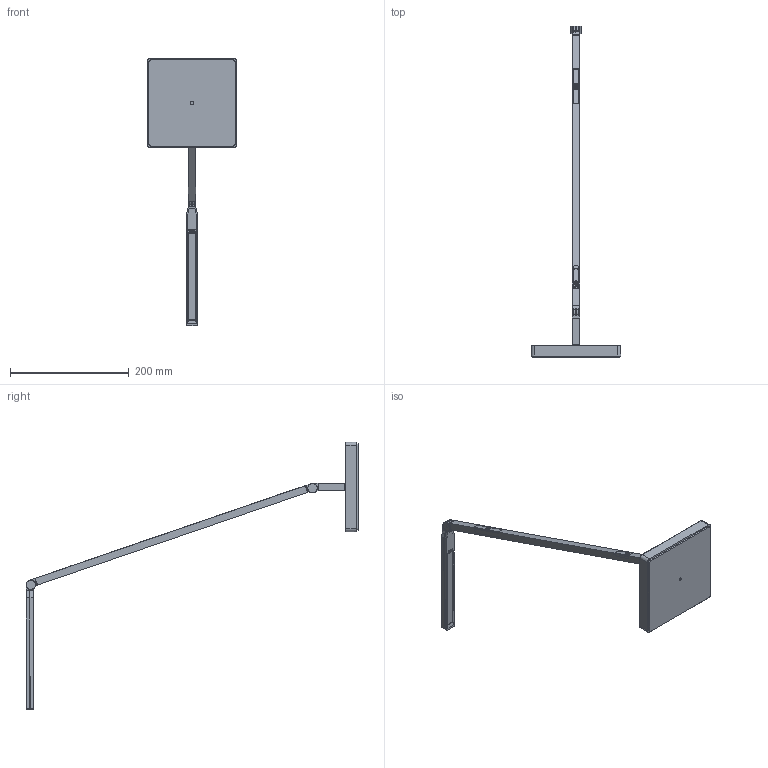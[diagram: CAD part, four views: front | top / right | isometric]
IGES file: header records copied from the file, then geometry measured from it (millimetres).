
Start section: SolidWorks IGES file using analytic representation for surfaces
Global section: file name: C:\Users\MarcoErba\Desktop\800UNTLNN151_UNTITLED MINI LINEAR 2700K.IGS; native system: SolidWorks 2016; preprocessor: SolidWorks 2016; author: MarcoErba; date: 230120.112518; units: millimetre
Bounding box: 150.31 x 558.06 x 449.55 mm (x, y, z)
Surface area: 166030.8 mm2 (no closed solid volume)
Topology: 0 solids, 0 shells, 1376 faces, 11897 edges, 11895 vertices
Faces by surface type: bspline 979, revolution 397
